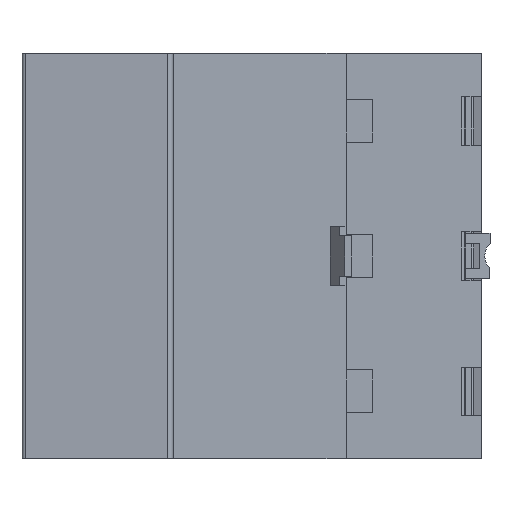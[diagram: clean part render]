
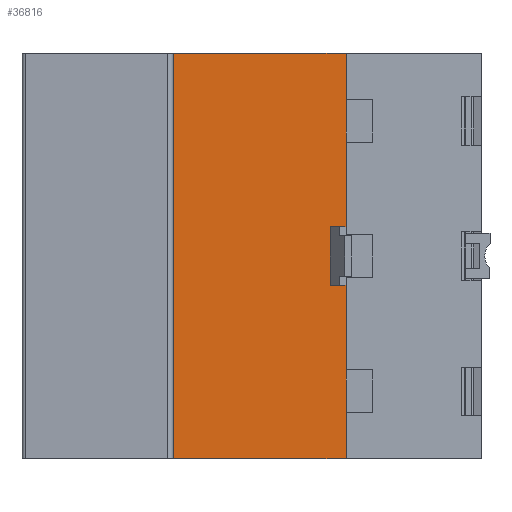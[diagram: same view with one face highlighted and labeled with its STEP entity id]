
A CAD part, front view. The second image highlights one B-rep face of the part: STEP entity #36816.
In plain terms, the highlighted planar face has unit normal (0, -1, 0).
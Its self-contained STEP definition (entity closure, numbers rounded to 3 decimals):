
#1949 = LINE ( 'NONE', #1950, #4810 ) ;
#1950 = CARTESIAN_POINT ( 'NONE',  ( 12.171, -32.772, 13.25 ) ) ;
#1951 = DIRECTION ( 'NONE',  ( 0., 0., -1. ) ) ;
#1952 = LINE ( 'NONE', #1954, #4813 ) ;
#1954 = CARTESIAN_POINT ( 'NONE',  ( 38.671, -32.772, 13.25 ) ) ;
#1955 = DIRECTION ( 'NONE',  ( -1., 0., 0. ) ) ;
#4810 = VECTOR ( 'NONE', #1951, 1000. ) ;
#4813 = VECTOR ( 'NONE', #1955, 1000. ) ;
#6256 = EDGE_CURVE ( 'NONE', #15255, #15439, #36057, .T. ) ;
#11261 = AXIS2_PLACEMENT_3D ( 'NONE', #34187, #34189, #34191 ) ;
#15110 = EDGE_LOOP ( 'NONE', ( #15669, #15667, #15665, #15663 ) ) ;
#15255 = VERTEX_POINT ( 'NONE', #31804 ) ;
#15439 = VERTEX_POINT ( 'NONE', #31988 ) ;
#15663 = ORIENTED_EDGE ( 'NONE', *, *, #22788, .F. ) ;
#15665 = ORIENTED_EDGE ( 'NONE', *, *, #37386, .F. ) ;
#15667 = ORIENTED_EDGE ( 'NONE', *, *, #6256, .F. ) ;
#15669 = ORIENTED_EDGE ( 'NONE', *, *, #22790, .T. ) ;
#16416 = VECTOR ( 'NONE', #36059, 1000. ) ;
#22788 = EDGE_CURVE ( 'NONE', #48893, #48902, #1949, .T. ) ;
#22790 = EDGE_CURVE ( 'NONE', #48893, #15439, #1952, .T. ) ;
#31804 = CARTESIAN_POINT ( 'NONE',  ( -23.829, -32.772, -66.25 ) ) ;
#31988 = CARTESIAN_POINT ( 'NONE',  ( -23.829, -32.772, 13.25 ) ) ;
#34117 = PLANE ( 'NONE',  #11261 ) ;
#34157 = FACE_OUTER_BOUND ( 'NONE', #15110, .T. ) ;
#34187 = CARTESIAN_POINT ( 'NONE',  ( -23.829, -32.772, 13.25 ) ) ;
#34189 = DIRECTION ( 'NONE',  ( 0., 1., 0. ) ) ;
#34191 = DIRECTION ( 'NONE',  ( -1., 0., 0. ) ) ;
#36057 = LINE ( 'NONE', #36058, #16416 ) ;
#36058 = CARTESIAN_POINT ( 'NONE',  ( -23.829, -32.772, 13.25 ) ) ;
#36059 = DIRECTION ( 'NONE',  ( 0., 0., 1. ) ) ;
#36816 = ADVANCED_FACE ( 'NONE', ( #34157 ), #34117, .F. ) ;
#37386 = EDGE_CURVE ( 'NONE', #48902, #15255, #45196, .T. ) ;
#42831 = CARTESIAN_POINT ( 'NONE',  ( 12.171, -32.772, 13.25 ) ) ;
#42845 = CARTESIAN_POINT ( 'NONE',  ( 12.171, -32.772, -66.25 ) ) ;
#45196 = LINE ( 'NONE', #45197, #50028 ) ;
#45197 = CARTESIAN_POINT ( 'NONE',  ( -23.829, -32.772, -66.25 ) ) ;
#45198 = DIRECTION ( 'NONE',  ( -1., 0., 0. ) ) ;
#48893 = VERTEX_POINT ( 'NONE', #42831 ) ;
#48902 = VERTEX_POINT ( 'NONE', #42845 ) ;
#50028 = VECTOR ( 'NONE', #45198, 1000. ) ;
